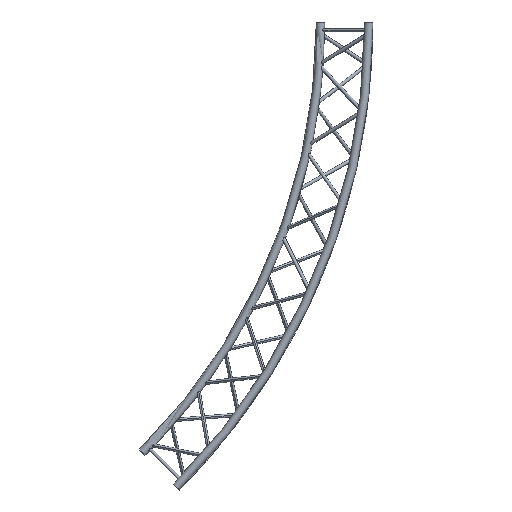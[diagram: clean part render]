
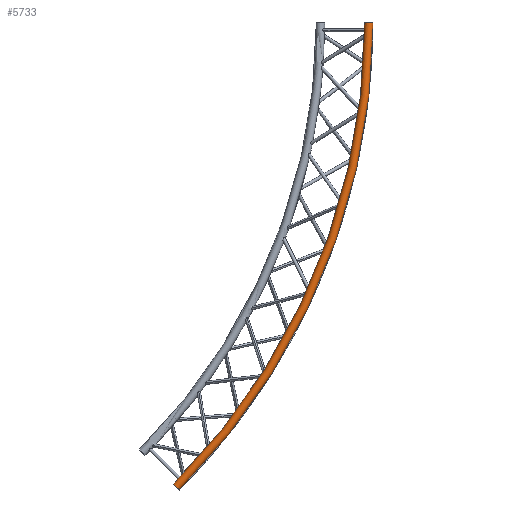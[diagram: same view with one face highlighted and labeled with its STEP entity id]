
A CAD part, front view. The second image highlights one B-rep face of the part: STEP entity #5733.
In plain terms, the highlighted toroidal (fillet/blend) face has major radius 3975 mm and minor radius 25 mm.
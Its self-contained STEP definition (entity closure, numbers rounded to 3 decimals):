
#3334 = CIRCLE ( 'NONE', #3425, 25. ) ;
#3335 = CARTESIAN_POINT ( 'NONE',  ( 3950., -168.5, 0. ) ) ;
#3358 = DIRECTION ( 'NONE',  ( 0., 0., -1. ) ) ;
#3359 = DIRECTION ( 'NONE',  ( 0., -1., 0. ) ) ;
#3360 = AXIS2_PLACEMENT_3D ( 'NONE', #3427, #3359, #3358 ) ;
#3361 = DIRECTION ( 'NONE',  ( 0.707, 0., -0.707 ) ) ;
#3362 = DIRECTION ( 'NONE',  ( 0.707, 0., 0.707 ) ) ;
#3363 = CARTESIAN_POINT ( 'NONE',  ( 2810.749, -168.5, -2810.749 ) ) ;
#3364 = CARTESIAN_POINT ( 'NONE',  ( 4000., -168.5, 0. ) ) ;
#3365 = DIRECTION ( 'NONE',  ( 0., 0., -1. ) ) ;
#3366 = DIRECTION ( 'NONE',  ( 0., -1., 0. ) ) ;
#3367 = CARTESIAN_POINT ( 'NONE',  ( 0., -168.5, 0. ) ) ;
#3368 = AXIS2_PLACEMENT_3D ( 'NONE', #3367, #3366, #3365 ) ;
#3373 = CIRCLE ( 'NONE', #3368, 4000. ) ;
#3420 = CARTESIAN_POINT ( 'NONE',  ( 2828.427, -168.5, -2828.427 ) ) ;
#3423 = DIRECTION ( 'NONE',  ( 0., 0., 1. ) ) ;
#3424 = CARTESIAN_POINT ( 'NONE',  ( 3975., -168.5, 0. ) ) ;
#3425 = AXIS2_PLACEMENT_3D ( 'NONE', #3424, #3423, #3430 ) ;
#3427 = CARTESIAN_POINT ( 'NONE',  ( 0., -168.5, 0. ) ) ;
#3428 = CIRCLE ( 'NONE', #3360, 3950. ) ;
#3430 = DIRECTION ( 'NONE',  ( 1., 0., 0. ) ) ;
#3435 = AXIS2_PLACEMENT_3D ( 'NONE', #3363, #3362, #3361 ) ;
#3436 = CIRCLE ( 'NONE', #3435, 25. ) ;
#3437 = CARTESIAN_POINT ( 'NONE',  ( 2793.072, -168.5, -2793.072 ) ) ;
#4188 = CARTESIAN_POINT ( 'NONE',  ( 0., -168.5, 0. ) ) ;
#4189 = AXIS2_PLACEMENT_3D ( 'NONE', #4188, #4223, #4222 ) ;
#4190 = TOROIDAL_SURFACE ( 'NONE', #4189, 3975., 25. ) ;
#4222 = DIRECTION ( 'NONE',  ( 0., 0., -1. ) ) ;
#4223 = DIRECTION ( 'NONE',  ( 0., -1., 0. ) ) ;
#4229 = FACE_OUTER_BOUND ( 'NONE', #5734, .T. ) ;
#5670 = EDGE_CURVE ( 'NONE', #5671, #5672, #3436, .T. ) ;
#5671 = VERTEX_POINT ( 'NONE', #3437 ) ;
#5672 = VERTEX_POINT ( 'NONE', #3420 ) ;
#5673 = ORIENTED_EDGE ( 'NONE', *, *, #5674, .T. ) ;
#5674 = EDGE_CURVE ( 'NONE', #5672, #5675, #3373, .T. ) ;
#5675 = VERTEX_POINT ( 'NONE', #3364 ) ;
#5676 = VERTEX_POINT ( 'NONE', #3335 ) ;
#5677 = ORIENTED_EDGE ( 'NONE', *, *, #5678, .F. ) ;
#5678 = EDGE_CURVE ( 'NONE', #5676, #5675, #3334, .T. ) ;
#5679 = ORIENTED_EDGE ( 'NONE', *, *, #5680, .F. ) ;
#5680 = EDGE_CURVE ( 'NONE', #5671, #5676, #3428, .T. ) ;
#5733 = ADVANCED_FACE ( 'NONE', ( #4229 ), #4190, .T. ) ;
#5734 = EDGE_LOOP ( 'NONE', ( #5735, #5673, #5677, #5679 ) ) ;
#5735 = ORIENTED_EDGE ( 'NONE', *, *, #5670, .T. ) ;
